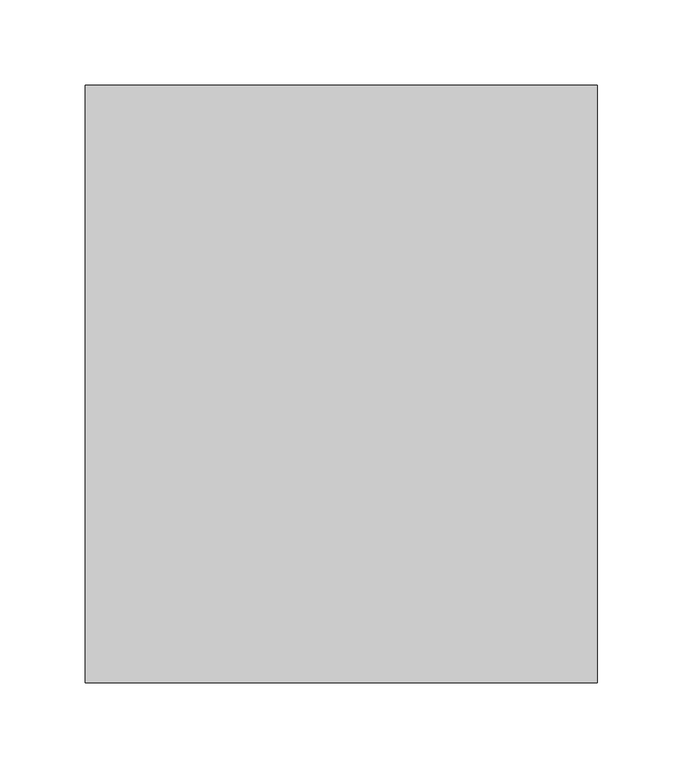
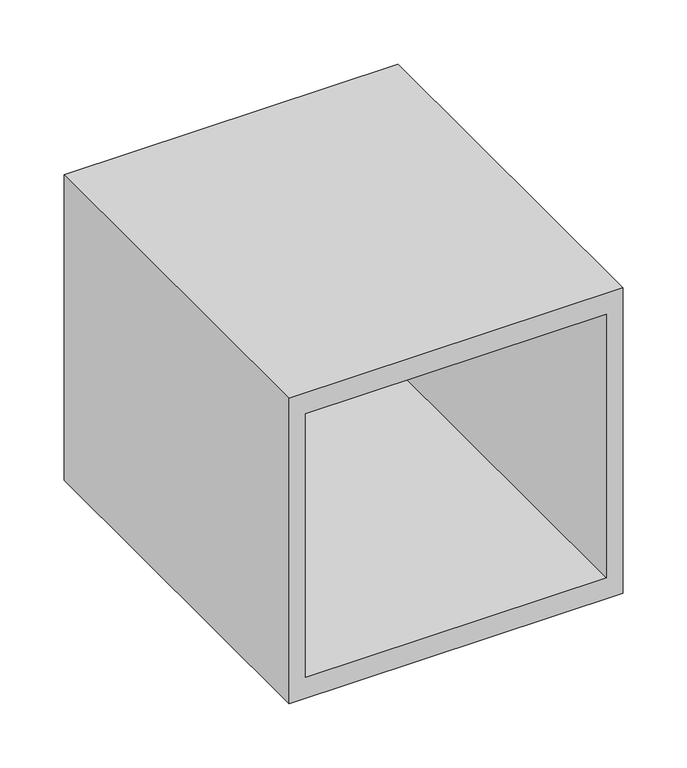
"""IFC4 building model written with IfcOpenShell, lengths in millimetres: furniture geometry, Nicho : Nicho."""

from ifc_helpers import new_model, si_unit, origin, place, context, project, spatial, faceted_brep, source, transform, mapped, element, save


def furniture_b993b705(model_context):
    return source(origin(), model_context, "Body", "Brep", [
        faceted_brep([(15.0, 0.0, 270.0), (15.0, 0.0, 20.0), (15.0, 335.0, 20.0), (15.0, 335.0, 270.0), (300.0, 0.0, 290.0), (0.0, 0.0, 290.0), (0.0, 0.0, 0.0), (300.0, 0.0, 0.0), (285.0, 0.0, 270.0), (285.0, 0.0, 20.0), (0.0, 350.0, 290.0), (0.0, 350.0, 0.0), (300.0, 350.0, 290.0), (300.0, 350.0, 0.0), (285.0, 335.0, 270.0), (285.0, 335.0, 20.0)], [[[0, 1, 2, 3]], [[4, 5, 6, 7], [1, 0, 8, 9]], [[5, 10, 11, 6]], [[10, 12, 13, 11]], [[4, 12, 10, 5]], [[8, 0, 3, 14]], [[12, 4, 7, 13]], [[9, 8, 14, 15]], [[1, 9, 15, 2]], [[7, 6, 11, 13]], [[3, 2, 15, 14]]]),
    ])


if __name__ == "__main__":
    model = new_model("IFC4")
    model_context = context("Model", 3, world=origin())
    ifc_project = project(units=[si_unit("LENGTHUNIT", "METRE", prefix="MILLI")], contexts=[model_context])
    site = spatial("IfcSite", under=ifc_project)
    building = spatial("IfcBuilding", under=site)
    placement = place(None, origin())
    furniture_shape = furniture_b993b705(model_context)
    element("IfcFurniture", 1, ObjectType="Nicho : Nicho", at=placement, inside=building, context=model_context, shape_type="MappedRepresentation", body=[
        mapped(furniture_shape, transform((0.0, 0.0, 0.0), x_axis=(1.0, 0.0, 0.0), y_axis=(0.0, 1.0, 0.0), z_axis=(0.0, 0.0, 1.0))),
    ])
    save(model, "model.ifc")
